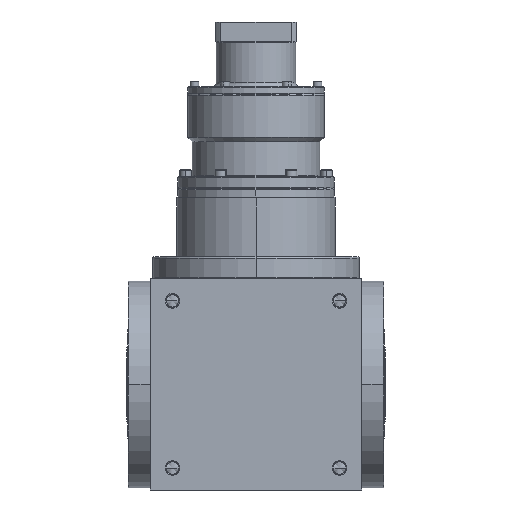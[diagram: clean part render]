
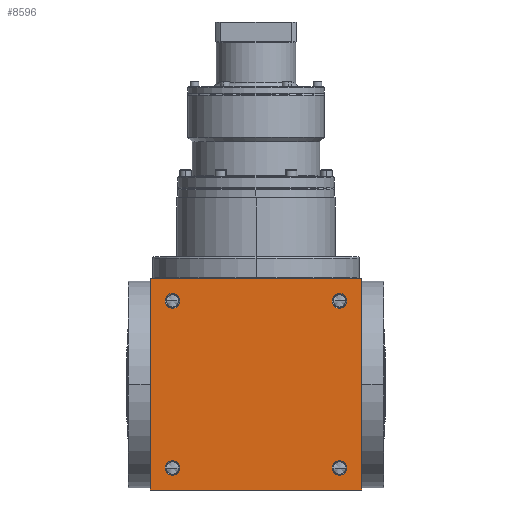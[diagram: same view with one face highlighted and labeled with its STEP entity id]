
A CAD part, front view. The second image highlights one B-rep face of the part: STEP entity #8596.
In plain terms, the highlighted planar face has unit normal (0, -1, 0).
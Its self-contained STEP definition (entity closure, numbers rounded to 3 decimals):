
#4519=DIRECTION('',(1.,0.,0.));
#4520=VECTOR('',#4519,240.);
#4521=CARTESIAN_POINT('',(-120.,-120.,-120.));
#4522=LINE('',#4521,#4520);
#4669=DIRECTION('',(0.,0.,1.));
#4670=VECTOR('',#4669,240.);
#4671=CARTESIAN_POINT('',(120.,-120.,-120.));
#4672=LINE('',#4671,#4670);
#4723=DIRECTION('',(0.,0.,1.));
#4724=VECTOR('',#4723,240.);
#4725=CARTESIAN_POINT('',(-120.,-120.,-120.));
#4726=LINE('',#4725,#4724);
#4727=CARTESIAN_POINT('',(95.,-120.,95.));
#4728=DIRECTION('',(0.,1.,0.));
#4729=DIRECTION('',(-1.,0.,0.));
#4730=AXIS2_PLACEMENT_3D('',#4727,#4728,#4729);
#4732=CARTESIAN_POINT('',(95.,-120.,95.));
#4733=DIRECTION('',(0.,1.,0.));
#4734=DIRECTION('',(1.,0.,0.));
#4735=AXIS2_PLACEMENT_3D('',#4732,#4733,#4734);
#4737=CARTESIAN_POINT('',(-95.,-120.,95.));
#4738=DIRECTION('',(0.,1.,0.));
#4739=DIRECTION('',(-1.,0.,0.));
#4740=AXIS2_PLACEMENT_3D('',#4737,#4738,#4739);
#4742=CARTESIAN_POINT('',(-95.,-120.,95.));
#4743=DIRECTION('',(0.,1.,0.));
#4744=DIRECTION('',(1.,0.,0.));
#4745=AXIS2_PLACEMENT_3D('',#4742,#4743,#4744);
#4747=CARTESIAN_POINT('',(95.,-120.,-95.));
#4748=DIRECTION('',(0.,1.,0.));
#4749=DIRECTION('',(-1.,0.,0.));
#4750=AXIS2_PLACEMENT_3D('',#4747,#4748,#4749);
#4752=CARTESIAN_POINT('',(95.,-120.,-95.));
#4753=DIRECTION('',(0.,1.,0.));
#4754=DIRECTION('',(1.,0.,0.));
#4755=AXIS2_PLACEMENT_3D('',#4752,#4753,#4754);
#4757=CARTESIAN_POINT('',(-95.,-120.,-95.));
#4758=DIRECTION('',(0.,1.,0.));
#4759=DIRECTION('',(-1.,0.,0.));
#4760=AXIS2_PLACEMENT_3D('',#4757,#4758,#4759);
#4762=CARTESIAN_POINT('',(-95.,-120.,-95.));
#4763=DIRECTION('',(0.,1.,0.));
#4764=DIRECTION('',(1.,0.,0.));
#4765=AXIS2_PLACEMENT_3D('',#4762,#4763,#4764);
#4779=DIRECTION('',(1.,0.,0.));
#4780=VECTOR('',#4779,240.);
#4781=CARTESIAN_POINT('',(-120.,-120.,120.));
#4782=LINE('',#4781,#4780);
#7790=CARTESIAN_POINT('',(-120.,-120.,-120.));
#7792=VERTEX_POINT('',#7790);
#7793=CARTESIAN_POINT('',(120.,-120.,-120.));
#7794=VERTEX_POINT('',#7793);
#7798=CARTESIAN_POINT('',(-120.,-120.,120.));
#7800=VERTEX_POINT('',#7798);
#7801=CARTESIAN_POINT('',(120.,-120.,120.));
#7802=VERTEX_POINT('',#7801);
#7965=CARTESIAN_POINT('',(86.6,-120.,95.));
#7966=CARTESIAN_POINT('',(103.4,-120.,95.));
#7967=VERTEX_POINT('',#7965);
#7968=VERTEX_POINT('',#7966);
#7973=CARTESIAN_POINT('',(-103.4,-120.,95.));
#7974=CARTESIAN_POINT('',(-86.6,-120.,95.));
#7975=VERTEX_POINT('',#7973);
#7976=VERTEX_POINT('',#7974);
#7981=CARTESIAN_POINT('',(86.6,-120.,-95.));
#7982=CARTESIAN_POINT('',(103.4,-120.,-95.));
#7983=VERTEX_POINT('',#7981);
#7984=VERTEX_POINT('',#7982);
#7989=CARTESIAN_POINT('',(-103.4,-120.,-95.));
#7990=CARTESIAN_POINT('',(-86.6,-120.,-95.));
#7991=VERTEX_POINT('',#7989);
#7992=VERTEX_POINT('',#7990);
#8560=CARTESIAN_POINT('',(-120.,-120.,-120.));
#8561=DIRECTION('',(0.,-1.,0.));
#8562=DIRECTION('',(1.,0.,0.));
#8563=AXIS2_PLACEMENT_3D('',#8560,#8561,#8562);
#8564=PLANE('',#8563);
#8565=ORIENTED_EDGE('',*,*,#8400,.F.);
#8566=ORIENTED_EDGE('',*,*,#8443,.T.);
#8568=ORIENTED_EDGE('',*,*,#8567,.T.);
#8569=ORIENTED_EDGE('',*,*,#8522,.F.);
#8570=EDGE_LOOP('',(#8565,#8566,#8568,#8569));
#8571=FACE_OUTER_BOUND('',#8570,.F.);
#8573=ORIENTED_EDGE('',*,*,#8572,.F.);
#8575=ORIENTED_EDGE('',*,*,#8574,.F.);
#8576=EDGE_LOOP('',(#8573,#8575));
#8577=FACE_BOUND('',#8576,.F.);
#8579=ORIENTED_EDGE('',*,*,#8578,.F.);
#8581=ORIENTED_EDGE('',*,*,#8580,.F.);
#8582=EDGE_LOOP('',(#8579,#8581));
#8583=FACE_BOUND('',#8582,.F.);
#8585=ORIENTED_EDGE('',*,*,#8584,.F.);
#8587=ORIENTED_EDGE('',*,*,#8586,.F.);
#8588=EDGE_LOOP('',(#8585,#8587));
#8589=FACE_BOUND('',#8588,.F.);
#8591=ORIENTED_EDGE('',*,*,#8590,.F.);
#8593=ORIENTED_EDGE('',*,*,#8592,.F.);
#8594=EDGE_LOOP('',(#8591,#8593));
#8595=FACE_BOUND('',#8594,.F.);
#8596=ADVANCED_FACE('',(#8571,#8577,#8583,#8589,#8595),#8564,.T.);
#4731=CIRCLE('',#4730,8.4);
#4736=CIRCLE('',#4735,8.4);
#4741=CIRCLE('',#4740,8.4);
#4746=CIRCLE('',#4745,8.4);
#4751=CIRCLE('',#4750,8.4);
#4756=CIRCLE('',#4755,8.4);
#4761=CIRCLE('',#4760,8.4);
#4766=CIRCLE('',#4765,8.4);
#8400=EDGE_CURVE('',#7792,#7794,#4522,.T.);
#8443=EDGE_CURVE('',#7792,#7800,#4726,.T.);
#8522=EDGE_CURVE('',#7794,#7802,#4672,.T.);
#8567=EDGE_CURVE('',#7800,#7802,#4782,.T.);
#8572=EDGE_CURVE('',#7967,#7968,#4731,.T.);
#8574=EDGE_CURVE('',#7968,#7967,#4736,.T.);
#8578=EDGE_CURVE('',#7975,#7976,#4741,.T.);
#8580=EDGE_CURVE('',#7976,#7975,#4746,.T.);
#8584=EDGE_CURVE('',#7983,#7984,#4751,.T.);
#8586=EDGE_CURVE('',#7984,#7983,#4756,.T.);
#8590=EDGE_CURVE('',#7991,#7992,#4761,.T.);
#8592=EDGE_CURVE('',#7992,#7991,#4766,.T.);
